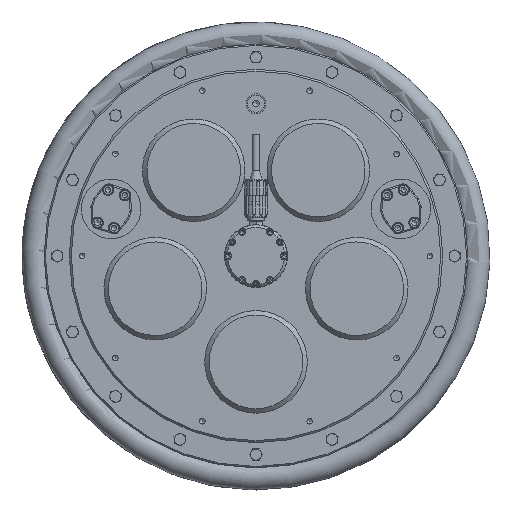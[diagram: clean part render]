
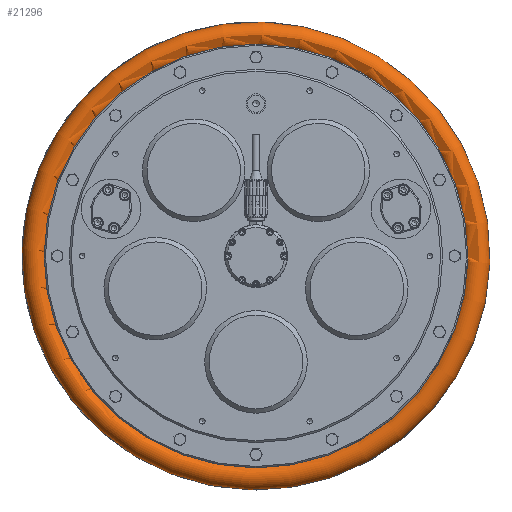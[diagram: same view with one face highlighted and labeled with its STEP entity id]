
A CAD part, front view. The second image highlights one B-rep face of the part: STEP entity #21296.
In plain terms, the highlighted toroidal (fillet/blend) face has major radius 333.487 mm and minor radius 20.013 mm.
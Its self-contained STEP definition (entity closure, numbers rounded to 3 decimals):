
#3597=TOROIDAL_SURFACE('',#23169,333.487,20.013);
#3860=FACE_BOUND('',#6374,.T.);
#4807=FACE_OUTER_BOUND('',#6373,.T.);
#6373=EDGE_LOOP('',(#15844));
#6374=EDGE_LOOP('',(#15845));
#7673=CIRCLE('',#22816,317.686);
#7786=CIRCLE('',#23170,317.686);
#8960=VERTEX_POINT('',#35691);
#9265=VERTEX_POINT('',#37118);
#11139=EDGE_CURVE('',#8960,#8960,#7673,.T.);
#11636=EDGE_CURVE('',#9265,#9265,#7786,.T.);
#15844=ORIENTED_EDGE('',*,*,#11139,.F.);
#15845=ORIENTED_EDGE('',*,*,#11636,.T.);
#21296=ADVANCED_FACE('',(#4807,#3860),#3597,.T.);
#22816=AXIS2_PLACEMENT_3D('',#35692,#26414,#26415);
#23169=AXIS2_PLACEMENT_3D('',#37117,#27312,#27313);
#23170=AXIS2_PLACEMENT_3D('',#37119,#27314,#27315);
#26414=DIRECTION('center_axis',(0.,-1.,0.));
#26415=DIRECTION('ref_axis',(0.,0.,
-1.));
#27312=DIRECTION('center_axis',(0.,-1.,0.));
#27313=DIRECTION('ref_axis',(-0.029,0.,-1.));
#27314=DIRECTION('center_axis',(0.,-1.,0.));
#27315=DIRECTION('ref_axis',(1.,0.,-0.029));
#35691=CARTESIAN_POINT('',(317.553,500.25,-9.189));
#35692=CARTESIAN_POINT('Origin',(0.,500.25,
0.));
#37117=CARTESIAN_POINT('Origin',(0.,512.53,
0.));
#37118=CARTESIAN_POINT('',(317.553,524.811,-9.189));
#37119=CARTESIAN_POINT('Origin',(0.,524.811,
0.));
